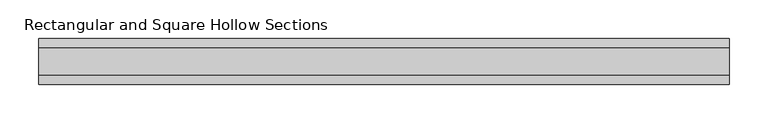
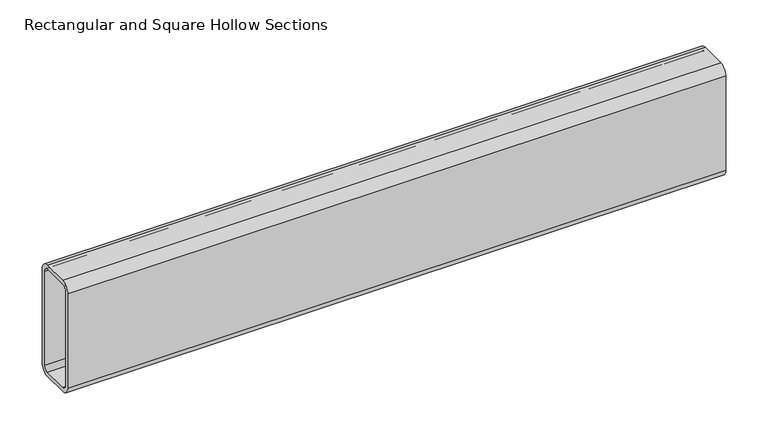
"""IFC4 building model written with IfcOpenShell, lengths in millimetres: beam geometry, Rectangular and Square Hollow Sections : TREC160x60x6."""

from ifc_helpers import new_model, si_unit, point, frame, frame_2d, origin, place, context, project, spatial, polyline, circle_curve, trimmed, segment, composite_curve, outline, extrude, source, transform, mapped, element, save


def rectangular_and_square_hollow_sections_c3bdba6e(model_context):
    return source(origin(), model_context, "Body", "SweptSolid", [
        extrude(outline(composite_curve([segment(polyline([(30.0, 68.0), (30.0, -68.0)]), True, "CONTINUOUS"), segment(trimmed(circle_curve(frame_2d((18.0, -68.0)), 12.0), [point((30.0, -68.0))], [point((18.0, -80.0))], False, "CARTESIAN"), True, "CONTINUOUS"), segment(polyline([(18.0, -80.0), (-18.0, -80.0)]), True, "CONTINUOUS"), segment(trimmed(circle_curve(frame_2d((-18.0, -68.0)), 12.0), [point((-18.0, -80.0))], [point((-30.0, -68.0))], False, "CARTESIAN"), True, "CONTINUOUS"), segment(polyline([(-30.0, -68.0), (-30.0, 68.0)]), True, "CONTINUOUS"), segment(trimmed(circle_curve(frame_2d((-18.0, 68.0)), 12.0), [point((-30.0, 68.0))], [point((-18.0, 80.0))], False, "CARTESIAN"), True, "CONTINUOUS"), segment(polyline([(-18.0, 80.0), (18.0, 80.0)]), True, "CONTINUOUS"), segment(trimmed(circle_curve(frame_2d((18.0, 68.0)), 12.0), [point((18.0, 80.0))], [point((30.0, 68.0))], False, "CARTESIAN"), True, "CONTINUOUS")], self_intersect=False), holes=[composite_curve([segment(trimmed(circle_curve(frame_2d((-18.0, 68.0)), 6.0), [point((-18.0, 74.0))], [point((-24.0, 68.0))], True, "CARTESIAN"), True, "CONTINUOUS"), segment(polyline([(-24.0, 68.0), (-24.0, -68.0)]), True, "CONTINUOUS"), segment(trimmed(circle_curve(frame_2d((-18.0, -68.0)), 6.0), [point((-24.0, -68.0))], [point((-18.0, -74.0))], True, "CARTESIAN"), True, "CONTINUOUS"), segment(polyline([(-18.0, -74.0), (18.0, -74.0)]), True, "CONTINUOUS"), segment(trimmed(circle_curve(frame_2d((18.0, -68.0)), 6.0), [point((18.0, -74.0))], [point((24.0, -68.0))], True, "CARTESIAN"), True, "CONTINUOUS"), segment(polyline([(24.0, -68.0), (24.0, 68.0)]), True, "CONTINUOUS"), segment(trimmed(circle_curve(frame_2d((18.0, 68.0)), 6.0), [point((24.0, 68.0))], [point((18.0, 74.0))], True, "CARTESIAN"), True, "CONTINUOUS"), segment(polyline([(18.0, 74.0), (-18.0, 74.0)]), True, "CONTINUOUS")], self_intersect=False)]), frame((-448.5, 0.0, 0.0), z_axis=(1.0, 0.0, 0.0), x_axis=(0.0, 1.0, 0.0)), (0.0, 0.0, 1.0), 897.0),
    ])


if __name__ == "__main__":
    model = new_model("IFC4")
    model_context = context("Model", 3, world=origin())
    ifc_project = project(units=[si_unit("LENGTHUNIT", "METRE", prefix="MILLI")], contexts=[model_context])
    site = spatial("IfcSite", under=ifc_project)
    building = spatial("IfcBuilding", under=site)
    placement = place(None, origin())
    rectangular_and_square_hollow_sections_shape = rectangular_and_square_hollow_sections_c3bdba6e(model_context)
    element("IfcBeam", 1, ObjectType="Rectangular and Square Hollow Sections : TREC160x60x6", at=placement, inside=building, context=model_context, shape_type="MappedRepresentation", body=[
        mapped(rectangular_and_square_hollow_sections_shape, transform((0.0, 0.0, 0.0), x_axis=(1.0, 0.0, 0.0), y_axis=(0.0, 1.0, 0.0), z_axis=(0.0, 0.0, 1.0))),
    ])
    save(model, "model.ifc")
